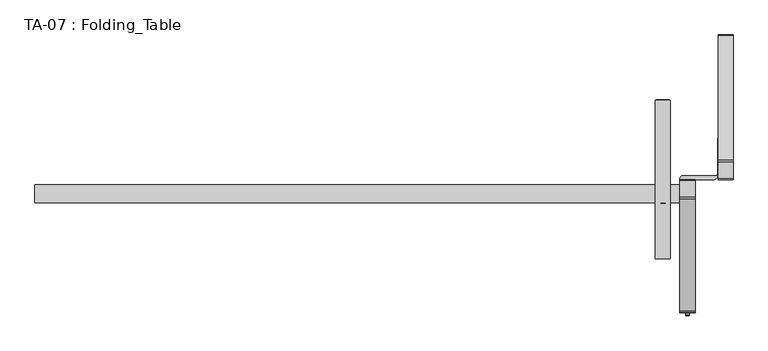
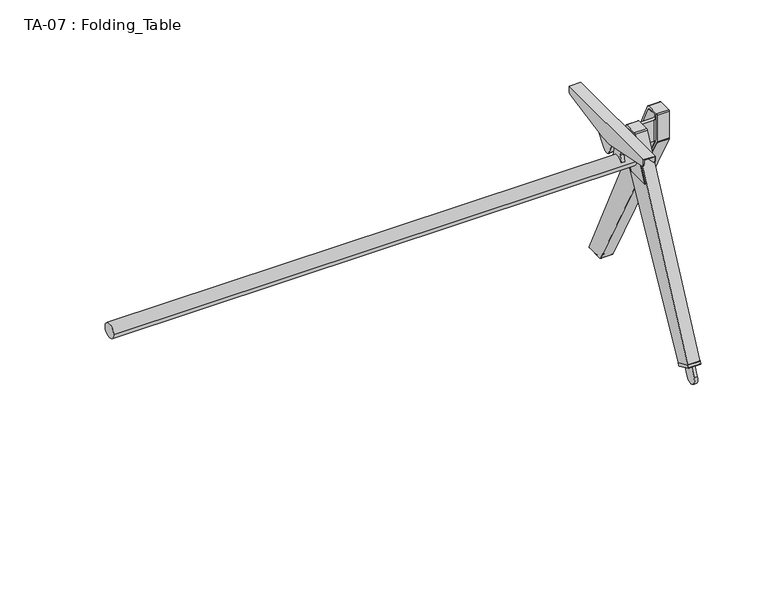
"""IFC4 building model written with IfcOpenShell, lengths in millimetres: furniture geometry, TA-07 : Folding_Table."""

from ifc_helpers import new_model, si_unit, point, frame, frame_2d, origin, place, context, project, spatial, polyline, circle_curve, ellipse_curve, trimmed, segment, composite_curve, outline, extrude, source, transform, mapped, element, save
from ifc_brep_helpers import plane_surface, cylinder_surface, revolved_surface, extruded_surface, advanced_brep


def ta_07_folding_table_b62b0f4c(model_context):
    return source(origin(), model_context, "Body", "SolidModel", [
        advanced_brep(
        [(754.0971375, -600.0, 692.5959015), (786.9972229, -600.0, 692.5959015), (786.9972229, -600.0, 680.1652766), (788.9970398, -600.0, 680.1652766), (788.9970398, -600.0, 694.5959473), (752.0973206, -600.0, 694.5959473), (752.0973206, -600.0, 680.1652766), (754.0971375, -600.0, 680.1652766), (786.9972229, -200.0, 692.5959015), (754.0971375, -200.0, 692.5959015), (754.0971375, -200.0, 680.164896), (752.0973206, -200.0, 680.164896), (752.0973206, -200.0, 694.5959473), (788.9970398, -200.0, 694.5959473), (788.9970398, -200.0, 680.164896), (786.9972229, -200.0, 680.164896), (752.0973206, -420.0, 636.0191727), (752.0973206, -591.9583135, 670.3589007), (752.0973206, -208.0417176, 670.3585139), (752.0973206, -380.0011244, 636.0191345), (754.0971375, -420.0, 636.0191727), (754.0971375, -380.0011244, 636.0191345), (754.0971375, -208.0417176, 670.3585139), (754.0971375, -591.9583135, 670.3589007), (788.9970398, -420.0, 636.0191727), (788.9970398, -380.0011244, 636.0191345), (788.9970398, -208.0417176, 670.3585139), (788.9970398, -591.9583135, 670.3589007), (786.9972229, -420.0, 636.0191727), (786.9972229, -591.9583135, 670.3589007), (786.9972229, -208.0417176, 670.3585139), (786.9972229, -380.0011244, 636.0191345)],
        [
            (0, 1),
            (1, 2),
            (2, 3),
            (3, 4),
            (4, 5),
            (5, 6),
            (6, 7),
            (7, 0),
            (8, 9),
            (9, 10),
            (10, 11),
            (11, 12),
            (12, 13),
            (13, 14),
            (14, 15),
            (15, 8),
            (12, 5),
            (4, 13),
            (0, 9),
            (8, 1),
            (16, 17),
            (17, 6, circle_curve(frame((752.0973206, -590.0, 680.1652766), z_axis=(-1.0, 0.0, 0.0), x_axis=(0.0, 1.0, 0.0)), 10.0)),
            (11, 18, circle_curve(frame((752.0973206, -210.0, 680.164896), z_axis=(-1.0, 0.0, 0.0), x_axis=(0.0, 1.0, 0.0)), 10.0)),
            (18, 19),
            (19, 16),
            (20, 21),
            (21, 22),
            (22, 10, circle_curve(frame((754.0971375, -210.0, 680.164896), z_axis=(1.0, 0.0, 0.0), x_axis=(0.0, 1.0, 0.0)), 10.0)),
            (7, 23, circle_curve(frame((754.0971375, -590.0, 680.1652766), z_axis=(1.0, 0.0, 0.0), x_axis=(0.0, 1.0, 0.0)), 10.0)),
            (23, 20),
            (19, 21),
            (20, 16),
            (18, 22),
            (17, 23),
            (24, 25),
            (25, 26),
            (26, 14, circle_curve(frame((788.9970398, -210.0, 680.164896), z_axis=(1.0, 0.0, 0.0), x_axis=(0.0, 1.0, 0.0)), 10.0)),
            (3, 27, circle_curve(frame((788.9970398, -590.0, 680.1652766), z_axis=(1.0, 0.0, 0.0), x_axis=(0.0, 1.0, 0.0)), 10.0)),
            (27, 24),
            (28, 29),
            (29, 2, circle_curve(frame((786.9972229, -590.0, 680.1652766), z_axis=(-1.0, 0.0, 0.0), x_axis=(0.0, 1.0, 0.0)), 10.0)),
            (15, 30, circle_curve(frame((786.9972229, -210.0, 680.164896), z_axis=(-1.0, 0.0, 0.0), x_axis=(0.0, 1.0, 0.0)), 10.0)),
            (30, 31),
            (31, 28),
            (24, 28),
            (31, 25),
            (30, 26),
            (29, 27),
        ],
        [
            plane_surface(frame((754.0971375, -600.0, 694.5959473), z_axis=(0.0, -1.0, 0.0), x_axis=(-1.0, 0.0, 0.0))),
            plane_surface(frame((754.0971375, -200.0, 694.5959473), z_axis=(0.0, 1.0, 0.0), x_axis=(1.0, 0.0, 0.0))),
            plane_surface(frame((786.9972229, -600.0, 694.5959473), z_axis=(0.0, 0.0, 1.0), x_axis=(0.0, 1.0, 0.0))),
            plane_surface(frame((754.0971375, -600.0, 692.5959015), z_axis=(0.0, 0.0, -1.0), x_axis=(0.0, 1.0, 0.0))),
            plane_surface(frame((752.0973206, -592.1557617, 670.3983307), z_axis=(-1.0000000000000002, 0.0, 0.0), x_axis=(0.0, -0.9806375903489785, 0.1958313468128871))),
            plane_surface(frame((754.0971375, -592.1557617, 670.3983307), z_axis=(1.0000000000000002, 0.0, 0.0), x_axis=(0.0, 0.9806375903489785, -0.1958313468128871))),
            plane_surface(frame((752.0973206, -380.0011244, 636.0191345), z_axis=(0.0, -9.536743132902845e-07, -0.9999999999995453), x_axis=(1.0, 0.0, 0.0))),
            plane_surface(frame((752.0973206, -208.0417176, 670.3585139), z_axis=(0.0, 0.1958282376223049, -0.9806382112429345), x_axis=(1.0, 0.0, 0.0))),
            cylinder_surface(frame((754.0971375, -210.0, 680.164896), z_axis=(-1.0, 0.0, 0.0), x_axis=(0.0, 1.0, 0.0)), 10.0),
            cylinder_surface(frame((754.0971375, -590.0, 680.1652766), z_axis=(-1.0, 0.0, 0.0), x_axis=(0.0, 1.0, 0.0)), 10.0),
            plane_surface(frame((752.0973206, -420.0, 636.0191727), z_axis=(0.0, -0.1958313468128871, -0.9806375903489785), x_axis=(1.0, 0.0, 0.0))),
            plane_surface(frame((788.9970398, -380.0, 636.0191345), z_axis=(1.0, 0.0, 0.0), x_axis=(0.0, 0.9999999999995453, -9.536743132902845e-07))),
            plane_surface(frame((786.9972229, -380.0, 636.0191345), z_axis=(-1.0, 0.0, 0.0), x_axis=(0.0, -0.9999999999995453, 9.536743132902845e-07))),
            plane_surface(frame((788.9970398, -420.0, 636.0191727), z_axis=(0.0, -9.536743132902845e-07, -0.9999999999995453), x_axis=(-1.0, 0.0, 0.0))),
            plane_surface(frame((788.9970398, -380.0011244, 636.0191345), z_axis=(0.0, 0.1958282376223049, -0.9806382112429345), x_axis=(-1.0, 0.0, 0.0))),
            cylinder_surface(frame((786.9972229, -210.0, 680.164896), z_axis=(1.0, 0.0, 0.0), x_axis=(0.0, 1.0, 0.0)), 10.0),
            cylinder_surface(frame((786.9972229, -590.0, 680.1652766), z_axis=(1.0, 0.0, 0.0), x_axis=(0.0, 1.0, 0.0)), 10.0),
            plane_surface(frame((788.9970398, -591.9583135, 670.3589007), z_axis=(0.0, -0.1958313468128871, -0.9806375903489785), x_axis=(-1.0, 0.0, 0.0))),
        ],
        [
            (0, [[1, 2, 3, 4, 5, 6, 7, 8]]),
            (1, [[9, 10, 11, 12, 13, 14, 15, 16]]),
            (2, [[-13, 17, -5, 18]]),
            (3, [[-1, 19, -9, 20]]),
            (4, [[21, 22, -6, -17, -12, 23, 24, 25]]),
            (5, [[26, 27, 28, -10, -19, -8, 29, 30]]),
            (6, [[-25, 31, -26, 32]]),
            (7, [[-24, 33, -27, -31]]),
            (8, [[-23, -11, -28, -33]]),
            (9, [[-22, 34, -29, -7]]),
            (10, [[-21, -32, -30, -34]]),
            (11, [[35, 36, 37, -14, -18, -4, 38, 39]]),
            (12, [[40, 41, -2, -20, -16, 42, 43, 44]]),
            (13, [[-35, 45, -44, 46]]),
            (14, [[-36, -46, -43, 47]]),
            (15, [[-37, -47, -42, -15]]),
            (16, [[-38, -3, -41, 48]]),
            (17, [[-39, -48, -40, -45]]),
        ],
    ),
        extrude(outline(composite_curve([segment(polyline([(-200.0, 692.5959015), (-199.0002441, 692.5959015), (-199.0038608, 680.0645277)]), True, "CONTINUOUS"), segment(trimmed(circle_curve(frame_2d((-209.8817981, 680.0676671)), 10.8779378), [point((-199.0038608, 680.0645277))], [point((-207.7511244, 669.4004388))], False, "CARTESIAN"), True, "CONTINUOUS"), segment(polyline([(-207.7511244, 669.4004388), (-271.2817383, 656.7108248), (-271.2817383, 657.729818), (-208.0417176, 670.3585139)]), True, "CONTINUOUS"), segment(trimmed(circle_curve(frame_2d((-210.0, 680.164896)), 10.0), [point((-208.0417176, 670.3585139))], [point((-200.0, 680.164896))], True, "CARTESIAN"), True, "CONTINUOUS"), segment(polyline([(-200.0, 680.164896), (-200.0, 692.5959015)]), True, "CONTINUOUS")], self_intersect=False)), frame((754.0971375, 0.0, 0.0), z_axis=(1.0, 0.0, 0.0), x_axis=(0.0, 1.0, 0.0)), (0.0, 0.0, 1.0), 32.9000854),
        extrude(outline(polyline([(-452.5708008, 615.4007339), (-462.3022461, 660.1964569), (-460.480957, 692.5959015), (-411.9262695, 692.5959015), (-410.1049805, 660.1964569), (-419.8364258, 615.4007339), (-414.5422363, 594.0221024), (-415.8666992, 593.2231903), (-431.9549873, 605.80503), (-440.4321023, 605.80503), (-456.6023328, 593.2604712), (-457.8649902, 594.0221024), (-452.5708008, 615.4007339)])), frame((765.2958679, 0.0, 0.0), z_axis=(1.0, 0.0, 0.0), x_axis=(0.0, 1.0, 0.0)), (0.0, 0.0, 1.0), 11.3989258),
        extrude(outline(composite_curve([segment(polyline([(-410.0929386, 601.5192922), (-455.8850098, 692.5959015), (-313.3691406, 692.5959015), (-386.0443302, 600.8897033)]), True, "CONTINUOUS"), segment(trimmed(circle_curve(frame_2d((-394.7775739, 607.8106111)), 11.1430925), [point((-386.0443302, 600.8897033))], [point((-394.7775739, 596.6675186))], False, "CARTESIAN"), True, "CONTINUOUS"), segment(polyline([(-394.7775739, 596.6675186), (-402.2230265, 596.6675186)]), True, "CONTINUOUS"), segment(trimmed(circle_curve(frame_2d((-402.2230265, 605.4761762)), 8.8086575), [point((-402.2230265, 596.6675186))], [point((-410.0929386, 601.5192922))], False, "CARTESIAN"), True, "CONTINUOUS")], self_intersect=False)), frame((754.0971375, 0.0, 0.0), z_axis=(1.0, 0.0, 0.0), x_axis=(0.0, 1.0, 0.0)), (0.0, 0.0, 1.0), 32.9000854),
        advanced_brep(
        [(909.9983215, -388.8262127, 661.4302063), (909.9983215, -392.7819824, 657.4744366), (909.9983215, -392.7819824, 580.7332459), (909.9983215, -390.7921278, 572.8320514), (909.9983215, -371.4930343, 536.9463768), (909.9983215, -365.5569557, 533.3987045), (909.9983215, -298.68737, 533.3986664), (909.9983215, -296.4370087, 536.9958113), (909.9983215, -355.1239136, 657.6416082), (909.9983215, -361.1798947, 661.4302063), (908.7800598, -388.8262127, 661.4302063), (908.7800598, -361.1798947, 661.4302063), (908.7800598, -355.1239136, 657.6416082), (908.7800598, -296.4370087, 536.9958113), (908.7800598, -298.68737, 533.3986664), (908.7800598, -365.5569557, 533.3987045), (908.7800598, -371.4930343, 536.9463768), (908.7800598, -390.7921278, 572.8320514), (908.7800598, -392.7819824, 580.7332459), (908.7800598, -392.7819824, 582.8483963), (908.7800598, -385.991464, 582.8483963), (908.7800598, -385.991464, 652.8482819), (908.7800598, -392.7819824, 652.8482819), (908.7800598, -392.7819824, 657.4744366), (909.6035583, -392.7819824, 652.8482819), (909.6035583, -392.7819824, 582.8483963), (822.780304, -390.0, 652.8482819), (812.780304, -400.0, 652.8482819), (812.780304, -407.2180176, 652.8482819), (813.9985657, -407.2180176, 652.8482819), (814.0065002, -400.0, 652.8482819), (899.9983215, -400.0, 652.8482819), (904.7715239, -390.0, 652.8482819), (822.780304, -390.0, 582.8483963), (904.7715239, -390.0, 582.8483963), (899.9983215, -400.0, 582.8483963), (814.0065002, -400.0, 582.8483963), (814.0065002, -407.2180176, 582.8483963), (812.780304, -407.2180176, 582.8483963), (812.780304, -400.0, 582.8483963), (812.780304, -407.2180176, 580.7332459), (812.780304, -409.2078722, 572.8320514), (812.780304, -428.5069657, 536.9463768), (812.780304, -434.4430443, 533.3987045), (812.780304, -501.31263, 533.3986664), (812.780304, -503.5629913, 536.9958113), (812.780304, -444.8760864, 657.6416082), (812.780304, -438.8201053, 661.4302063), (812.780304, -411.1737873, 661.4302063), (812.780304, -407.2180176, 657.4744366), (814.0065002, -407.2180176, 657.4744366), (814.0065002, -411.1737873, 661.4302063), (814.0065002, -438.8201053, 661.4302063), (814.0065002, -444.8760864, 657.6416082), (814.0065002, -503.5629913, 536.9958113), (814.0065002, -501.31263, 533.3986664), (814.0065002, -434.4430443, 533.3987045), (814.0065002, -428.5069657, 536.9463768), (814.0065002, -409.2078722, 572.8320514), (814.0065002, -407.2180176, 580.7332459)],
        [
            (0, 1, circle_curve(frame((909.9983215, -388.8262127, 657.4744366), z_axis=(1.0, 0.0, 0.0), x_axis=(0.0, 1.0, 0.0)), 3.9557697)),
            (1, 2),
            (2, 3, circle_curve(frame((909.9983215, -376.1002619, 580.7332459), z_axis=(1.0, 0.0, 0.0), x_axis=(0.0, 1.0, 0.0)), 16.6817205)),
            (3, 4),
            (4, 5, circle_curve(frame((909.9983215, -365.5569519, 540.1387651), z_axis=(1.0, 0.0, 0.0), x_axis=(0.0, 1.0, 0.0)), 6.7400606)),
            (5, 6),
            (6, 7, circle_curve(frame((909.9983215, -298.6873685, 535.901147), z_axis=(1.0, 0.0, 0.0), x_axis=(0.0, 1.0, 0.0)), 2.5024806)),
            (7, 8),
            (8, 9, circle_curve(frame((909.9983215, -361.1798947, 654.6957385), z_axis=(1.0, 0.0, 0.0), x_axis=(0.0, 1.0, 0.0)), 6.7344678)),
            (9, 0),
            (10, 11),
            (11, 12, circle_curve(frame((908.7800598, -361.1798947, 654.6957385), z_axis=(-1.0, 0.0, 0.0), x_axis=(0.0, 1.0, 0.0)), 6.7344678)),
            (12, 13),
            (13, 14, circle_curve(frame((908.7800598, -298.6873685, 535.901147), z_axis=(-1.0, 0.0, 0.0), x_axis=(0.0, 1.0, 0.0)), 2.5024806)),
            (14, 15),
            (15, 16, circle_curve(frame((908.7800598, -365.5569519, 540.1387651), z_axis=(-1.0, 0.0, 0.0), x_axis=(0.0, 1.0, 0.0)), 6.7400606)),
            (16, 17),
            (17, 18, circle_curve(frame((908.7800598, -376.1002619, 580.7332459), z_axis=(-1.0, 0.0, 0.0), x_axis=(0.0, 1.0, 0.0)), 16.6817205)),
            (18, 19),
            (19, 20),
            (20, 21),
            (21, 22),
            (22, 23),
            (23, 10, circle_curve(frame((908.7800598, -388.8262127, 657.4744366), z_axis=(-1.0, 0.0, 0.0), x_axis=(0.0, 1.0, 0.0)), 3.9557697)),
            (0, 10),
            (23, 1),
            (22, 24),
            (24, 25),
            (25, 19),
            (18, 2),
            (17, 3),
            (16, 4),
            (15, 5),
            (14, 6),
            (13, 7),
            (12, 8),
            (11, 9),
            (26, 27, circle_curve(frame((822.780304, -400.0, 652.8482819), z_axis=(0.0, 0.0, 1.0), x_axis=(1.0, 0.0, 0.0)), 10.0)),
            (27, 28),
            (28, 29),
            (29, 30),
            (30, 31),
            (31, 24, circle_curve(frame((899.9983215, -390.0, 652.8482819), z_axis=(0.0, 0.0, 1.0), x_axis=(1.0, 0.0, 0.0)), 10.0)),
            (21, 32, circle_curve(frame((904.7715239, -385.991464, 652.8482819), z_axis=(0.0, 0.0, -1.0), x_axis=(1.0, 0.0, 0.0)), 4.008536)),
            (32, 26),
            (33, 34),
            (34, 20, circle_curve(frame((904.7715239, -385.991464, 582.8483963), z_axis=(0.0, 0.0, 1.0), x_axis=(1.0, 0.0, 0.0)), 4.008536)),
            (25, 35, circle_curve(frame((899.9983215, -390.0, 582.8483963), z_axis=(0.0, 0.0, -1.0), x_axis=(1.0, 0.0, 0.0)), 10.0)),
            (35, 36),
            (36, 37),
            (37, 38),
            (38, 39),
            (39, 33, circle_curve(frame((822.780304, -400.0, 582.8483963), z_axis=(0.0, 0.0, -1.0), x_axis=(1.0, 0.0, 0.0)), 10.0)),
            (26, 33),
            (39, 27),
            (38, 40),
            (40, 41, circle_curve(frame((812.780304, -423.8997381, 580.7332459), z_axis=(-1.0, 0.0, 0.0), x_axis=(0.0, -1.0, 0.0)), 16.6817205)),
            (41, 42),
            (42, 43, circle_curve(frame((812.780304, -434.4430481, 540.1387651), z_axis=(-1.0, 0.0, 0.0), x_axis=(0.0, -1.0, 0.0)), 6.7400606)),
            (43, 44),
            (44, 45, circle_curve(frame((812.780304, -501.3126315, 535.901147), z_axis=(-1.0, 0.0, 0.0), x_axis=(0.0, -1.0, 0.0)), 2.5024806)),
            (45, 46),
            (46, 47, circle_curve(frame((812.780304, -438.8201053, 654.6957385), z_axis=(-1.0, 0.0, 0.0), x_axis=(0.0, -1.0, 0.0)), 6.7344678)),
            (47, 48),
            (48, 49, circle_curve(frame((812.780304, -411.1737873, 657.4744366), z_axis=(-1.0, 0.0, 0.0), x_axis=(0.0, -1.0, 0.0)), 3.9557697)),
            (49, 28),
            (29, 50),
            (50, 51, circle_curve(frame((814.0065002, -411.1737873, 657.4744366), z_axis=(1.0, 0.0, 0.0), x_axis=(0.0, -1.0, 0.0)), 3.9557697)),
            (51, 52),
            (52, 53, circle_curve(frame((814.0065002, -438.8201053, 654.6957385), z_axis=(1.0, 0.0, 0.0), x_axis=(0.0, -1.0, 0.0)), 6.7344678)),
            (53, 54),
            (54, 55, circle_curve(frame((814.0065002, -501.3126315, 535.901147), z_axis=(1.0, 0.0, 0.0), x_axis=(0.0, -1.0, 0.0)), 2.5024806)),
            (55, 56),
            (56, 57, circle_curve(frame((814.0065002, -434.4430481, 540.1387651), z_axis=(1.0, 0.0, 0.0), x_axis=(0.0, -1.0, 0.0)), 6.7400606)),
            (57, 58),
            (58, 59, circle_curve(frame((814.0065002, -423.8997381, 580.7332459), z_axis=(1.0, 0.0, 0.0), x_axis=(0.0, -1.0, 0.0)), 16.6817205)),
            (59, 37),
            (36, 30),
            (35, 31),
            (34, 32),
            (50, 49),
            (48, 51),
            (59, 40),
            (58, 41),
            (57, 42),
            (56, 43),
            (55, 44),
            (54, 45),
            (53, 46),
            (52, 47),
        ],
        [
            plane_surface(frame((909.9983215, -384.870443, 657.4744366), z_axis=(1.0, 0.0, 0.0), x_axis=(0.0, 0.0, 1.0))),
            plane_surface(frame((908.7800598, -384.870443, 657.4744366), z_axis=(-1.0, 0.0, 0.0), x_axis=(0.0, 0.0, -1.0))),
            cylinder_surface(frame((908.7800598, -388.8262127, 657.4744366), z_axis=(1.0, 0.0, 0.0), x_axis=(0.0, 1.0, 0.0)), 3.9557697),
            plane_surface(frame((909.9983215, -392.7819824, 657.4744366), z_axis=(0.0, -1.0, 0.0), x_axis=(-1.0, 0.0, 0.0))),
            cylinder_surface(frame((908.7800598, -376.1002619, 580.7332459), z_axis=(1.0, 0.0, 0.0), x_axis=(0.0, 1.0, 0.0)), 16.6817205),
            plane_surface(frame((909.9983215, -390.7921278, 572.8320514), z_axis=(0.0, -0.8807164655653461, -0.4736438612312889), x_axis=(-1.0, 0.0, 0.0))),
            cylinder_surface(frame((908.7800598, -365.5569519, 540.1387651), z_axis=(1.0, 0.0, 0.0), x_axis=(0.0, 1.0, 0.0)), 6.7400606),
            plane_surface(frame((909.9983215, -365.5569557, 533.3987045), z_axis=(0.0, -5.702242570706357e-07, -0.9999999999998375), x_axis=(-1.0, 0.0, 0.0))),
            cylinder_surface(frame((908.7800598, -298.6873685, 535.901147), z_axis=(1.0, 0.0, 0.0), x_axis=(0.0, 1.0, 0.0)), 2.5024806),
            plane_surface(frame((909.9983215, -296.4370087, 536.9958113), z_axis=(0.0, 0.8992516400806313, 0.4374316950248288), x_axis=(-1.0, 0.0, 0.0))),
            cylinder_surface(frame((908.7800598, -361.1798947, 654.6957385), z_axis=(1.0, 0.0, 0.0), x_axis=(0.0, 1.0, 0.0)), 6.7344678),
            plane_surface(frame((909.9983215, -361.1798947, 661.4302063), z_axis=(0.0, 0.0, 1.0), x_axis=(-1.0, 0.0, 0.0))),
            plane_surface(frame((832.780304, -400.0, 652.8482819), z_axis=(0.0, 0.0, 1.0), x_axis=(0.0, 1.0, 0.0))),
            plane_surface(frame((832.780304, -400.0, 582.8483963), z_axis=(0.0, 0.0, -1.0), x_axis=(0.0, -1.0, 0.0))),
            cylinder_surface(frame((822.780304, -400.0, 582.8483963), z_axis=(0.0, 0.0, 1.0), x_axis=(1.0, 0.0, 0.0)), 10.0),
            plane_surface(frame((812.780304, -400.0, 652.8482819), z_axis=(-1.0, 0.0, 0.0), x_axis=(0.0, 0.0, -1.0))),
            plane_surface(frame((814.0065002, -407.2180176, 652.8482819), z_axis=(1.0, 0.0, 0.0), x_axis=(0.0, 0.0, -1.0))),
            plane_surface(frame((814.0065002, -400.0, 652.8482819), z_axis=(0.0, -1.0, 0.0), x_axis=(0.0, 0.0, -1.0))),
            cylinder_surface(frame((899.9983215, -390.0, 582.8483963), z_axis=(0.0, 0.0, 1.0), x_axis=(1.0, 0.0, 0.0)), 10.0),
            revolved_surface(polyline([(908.7800599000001, -385.991464, 582.8483963), (908.7800599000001, -385.991464, 652.8482819)]), (904.7715239, -385.991464, 582.8483963), (0.0, 0.0, -1.0)),
            plane_surface(frame((904.7715239, -390.0, 652.8482819), z_axis=(0.0, 1.0, 0.0), x_axis=(0.0, 0.0, -1.0))),
            cylinder_surface(frame((812.780304, -411.1737873, 657.4744366), z_axis=(1.0, 0.0, 0.0), x_axis=(0.0, -1.0, 0.0)), 3.9557697),
            plane_surface(frame((813.9985657, -407.2180176, 580.7332459), z_axis=(0.0, 1.0, 0.0), x_axis=(-1.0, 0.0, 0.0))),
            cylinder_surface(frame((812.780304, -423.8997381, 580.7332459), z_axis=(1.0, 0.0, 0.0), x_axis=(0.0, -1.0, 0.0)), 16.6817205),
            plane_surface(frame((813.9985657, -428.5069657, 536.9463768), z_axis=(0.0, 0.8807164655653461, -0.4736438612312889), x_axis=(-1.0, 0.0, 0.0))),
            cylinder_surface(frame((812.780304, -434.4430481, 540.1387651), z_axis=(1.0, 0.0, 0.0), x_axis=(0.0, -1.0, 0.0)), 6.7400606),
            plane_surface(frame((813.9985657, -501.31263, 533.3986664), z_axis=(0.0, 5.702242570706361e-07, -0.9999999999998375), x_axis=(-1.0, 0.0, 0.0))),
            cylinder_surface(frame((812.780304, -501.3126315, 535.901147), z_axis=(1.0, 0.0, 0.0), x_axis=(0.0, -1.0, 0.0)), 2.5024806),
            plane_surface(frame((813.9985657, -444.8760864, 657.6416082), z_axis=(0.0, -0.8992516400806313, 0.4374316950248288), x_axis=(-1.0, 0.0, 0.0))),
            cylinder_surface(frame((812.780304, -438.8201053, 654.6957385), z_axis=(1.0, 0.0, 0.0), x_axis=(0.0, -1.0, 0.0)), 6.7344678),
            plane_surface(frame((813.9985657, -411.1737873, 661.4302063), z_axis=(0.0, 0.0, 1.0), x_axis=(-1.0, 0.0, 0.0))),
        ],
        [
            (0, [[1, 2, 3, 4, 5, 6, 7, 8, 9, 10]]),
            (1, [[11, 12, 13, 14, 15, 16, 17, 18, 19, 20, 21, 22, 23, 24]]),
            (2, [[-1, 25, -24, 26]]),
            (3, [[-2, -26, -23, 27, 28, 29, -19, 30]]),
            (4, [[-3, -30, -18, 31]]),
            (5, [[-4, -31, -17, 32]]),
            (6, [[-5, -32, -16, 33]]),
            (7, [[-6, -33, -15, 34]]),
            (8, [[-7, -34, -14, 35]]),
            (9, [[-8, -35, -13, 36]]),
            (10, [[-9, -36, -12, 37]]),
            (11, [[-10, -37, -11, -25]]),
            (12, [[38, 39, 40, 41, 42, 43, -27, -22, 44, 45]]),
            (13, [[46, 47, -20, -29, 48, 49, 50, 51, 52, 53]]),
            (14, [[-38, 54, -53, 55]]),
            (15, [[-39, -55, -52, 56, 57, 58, 59, 60, 61, 62, 63, 64, 65, 66]]),
            (16, [[-41, 67, 68, 69, 70, 71, 72, 73, 74, 75, 76, 77, -50, 78]]),
            (17, [[-42, -78, -49, 79]]),
            (18, [[-79, -48, -28, -43]]),
            (19, [[-44, -21, -47, 80]]),
            (20, [[-45, -80, -46, -54]]),
            (21, [[-68, 81, -65, 82]]),
            (22, [[-81, -67, -40, -66]]),
            (22, [[83, -56, -51, -77]]),
            (23, [[-76, 84, -57, -83]]),
            (24, [[-75, 85, -58, -84]]),
            (25, [[-74, 86, -59, -85]]),
            (26, [[-73, 87, -60, -86]]),
            (27, [[-72, 88, -61, -87]]),
            (28, [[-71, 89, -62, -88]]),
            (29, [[-70, 90, -63, -89]]),
            (30, [[-69, -82, -64, -90]]),
        ],
    ),
        extrude(outline(composite_curve([segment(trimmed(circle_curve(frame_2d((-436.2036133, 582.8474045)), 22.902832), [point((-459.1064453, 582.8474045))], [point((-413.3007813, 582.8474045))], False, "CARTESIAN"), True, "CONTINUOUS"), segment(trimmed(circle_curve(frame_2d((-436.2036133, 582.8474045)), 22.902832), [point((-413.3007813, 582.8474045))], [point((-459.1064453, 582.8474045))], False, "CARTESIAN"), True, "CONTINUOUS")], self_intersect=False)), frame((-814.0013123, 0.0, 0.0), z_axis=(1.0, 0.0, 0.0), x_axis=(0.0, 1.0, 0.0)), (0.0, 0.0, 1.0), 1627.9998779),
        extrude(outline(composite_curve([segment(polyline([(-732.3899502, 78.2882255), (-680.4574418, 54.186971), (-683.7228327, 48.1139125)]), True, "CONTINUOUS"), segment(trimmed(circle_curve(frame_2d((-685.1821687, 48.8985752)), 1.6569119), [point((-683.7228327, 48.1139125))], [point((-685.8796773, 47.3956317))], False, "CARTESIAN"), True, "CONTINUOUS"), segment(polyline([(-685.8796773, 47.3956317), (-734.8756253, 70.1344057)]), True, "CONTINUOUS"), segment(trimmed(circle_curve(frame_2d((-734.3351562, 71.2989712)), 1.283869), [point((-734.8756253, 70.1344057))], [point((-735.4915767, 71.8566553))], False, "CARTESIAN"), True, "CONTINUOUS"), segment(polyline([(-735.4915767, 71.8566553), (-732.3899502, 78.2882255)]), True, "CONTINUOUS")], self_intersect=False)), frame((813.9985657, 0.0, 0.0), z_axis=(1.0, 0.0, 0.0), x_axis=(0.0, 1.0, 0.0)), (0.0, 0.0, 1.0), 37.9998779),
        advanced_brep(
        [(837.8330994, -741.9613773, 37.5714478), (837.8330994, -704.1780804, 20.0337892), (837.8330994, -690.2764968, 49.9848002), (837.8330994, -728.059082, 67.5213623), (828.1639099, -741.9613773, 37.5714478), (828.1639099, -728.059082, 67.5213623), (828.1639099, -690.2764968, 49.9848002), (828.1639099, -704.1780804, 20.0337892)],
        [
            (0, 1, ellipse_curve(frame((837.8330994, -723.0698751, 28.8023033), z_axis=(1.0, 0.0, 0.0), x_axis=(0.0, -0.9070580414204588, 0.42100559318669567)), 20.8275479, 20.7758644)),
            (1, 2),
            (2, 3),
            (3, 0),
            (4, 5),
            (5, 6),
            (6, 7),
            (7, 4, ellipse_curve(frame((828.1639099, -723.0698751, 28.8023033), z_axis=(-1.0, 0.0, 0.0), x_axis=(0.0, -0.9070580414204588, 0.42100559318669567)), 20.8275479, 20.7758644)),
            (0, 4),
            (7, 1),
            (6, 2),
            (5, 3),
        ],
        [
            plane_surface(frame((837.8330994, -741.9616699, 37.5708175), z_axis=(1.0, 0.0, 0.0), x_axis=(0.0, -0.42100559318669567, -0.9070580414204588))),
            plane_surface(frame((828.1639099, -741.9616699, 37.5708175), z_axis=(-1.0, 0.0, 0.0), x_axis=(0.0, 0.42100559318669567, 0.9070580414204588))),
            extruded_surface(trimmed(ellipse_curve(frame((818.4947205, -723.0698751, 28.8023033), z_axis=(1.0, 0.0, 0.0), x_axis=(0.0, -0.9070580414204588, 0.42100559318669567)), 20.8275479, 20.7758644), [point((818.4947205, -741.9613773, 37.5714478))], [point((818.4947205, -704.1780804, 20.0337892))], True, "CARTESIAN"), (9.66918940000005, 0.0, 0.0), 9.66918940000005),
            plane_surface(frame((837.8330994, -704.1780804, 20.0337892), z_axis=(0.0, 0.9070580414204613, -0.42100559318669), x_axis=(-1.0, 0.0, 0.0))),
            plane_surface(frame((837.8330994, -690.2764968, 49.9848002), z_axis=(0.0, 0.4210055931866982, 0.9070580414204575), x_axis=(-1.0, 0.0, 0.0))),
            plane_surface(frame((837.8330994, -728.059082, 67.5213623), z_axis=(0.0, -0.9070439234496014, 0.4210360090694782), x_axis=(-1.0, 0.0, 0.0))),
        ],
        [
            (0, [[1, 2, 3, 4]]),
            (1, [[5, 6, 7, 8]]),
            (2, [[-1, 9, -8, 10]]),
            (3, [[-2, -10, -7, 11]]),
            (4, [[-3, -11, -6, 12]]),
            (5, [[-4, -12, -5, -9]]),
        ],
    ),
        advanced_brep(
        [(928.9982605, -59.3579102, 8.4972829), (943.8835144, -59.3579102, 8.4972829), (914.1130066, -59.3579102, 8.4972829), (917.3508998, -59.3579102, -0.4026309), (940.6456212, -59.3579102, -0.4026309), (928.9982605, -59.3579102, -0.4026309), (914.1130066, -59.3579102, 2.8352622), (943.8835144, -59.3579102, 2.8352622)],
        [
            (0, 1),
            (1, 2, circle_curve(frame((928.9982605, -59.3579102, 8.4972829), z_axis=(0.0, 0.0, 1.0), x_axis=(1.0, 0.0, 0.0)), 14.8852539)),
            (2, 0),
            (2, 1, circle_curve(frame((928.9982605, -59.3579102, 8.4972829), z_axis=(0.0, 0.0, 1.0), x_axis=(1.0, 0.0, 0.0)), 14.8852539)),
            (3, 4, circle_curve(frame((928.9982605, -59.3579102, -0.4026309), z_axis=(0.0, 0.0, -1.0), x_axis=(1.0, 0.0, 0.0)), 11.6473607)),
            (4, 5),
            (5, 3),
            (4, 3, circle_curve(frame((928.9982605, -59.3579102, -0.4026309), z_axis=(0.0, 0.0, -1.0), x_axis=(1.0, 0.0, 0.0)), 11.6473607)),
            (6, 7, circle_curve(frame((928.9982605, -59.3579102, 2.8352622), z_axis=(0.0, 0.0, -1.0), x_axis=(1.0, 0.0, 0.0)), 14.8852539)),
            (7, 4, circle_curve(frame((940.6456212, -59.3579102, 2.8352622), z_axis=(0.0, 1.0, 0.0), x_axis=(1.0, 0.0, 0.0)), 3.2378932)),
            (3, 6, circle_curve(frame((917.3508998, -59.3579102, 2.8352622), z_axis=(0.0, 1.0, 0.0), x_axis=(-1.0, 0.0, 0.0)), 3.2378932)),
            (7, 6, circle_curve(frame((928.9982605, -59.3579102, 2.8352622), z_axis=(0.0, 0.0, -1.0), x_axis=(1.0, 0.0, 0.0)), 14.8852539)),
            (1, 7),
            (6, 2),
        ],
        [
            plane_surface(frame((928.9982605, -59.3579102, 8.4972829), z_axis=(0.0, 0.0, 1.0), x_axis=(1.0, 0.0, 0.0))),
            plane_surface(frame((928.9982605, -59.3579102, -0.4026309), z_axis=(0.0, 0.0, -1.0), x_axis=(1.0, 0.0, 0.0))),
            revolved_surface(trimmed(ellipse_curve(frame((940.6456212, -59.3579102, 2.8352622), z_axis=(0.0, -1.0, 0.0), x_axis=(1.0, 0.0, 0.0)), 3.2378932, 3.2378932), [point((940.6456212, -59.3579102, -0.402631))], [point((943.8835144, -59.3579102, 2.8352622))], True, "CARTESIAN"), (928.9982605, -59.3579102, 2.5970915), (0.0, 0.0, 1.0)),
            cylinder_surface(frame((928.9982605, -59.3579102, 2.5970915), z_axis=(0.0, 0.0, 1.0), x_axis=(1.0, 0.0, 0.0)), 14.8852539),
        ],
        [
            (0, [[1, 2, 3]]),
            (0, [[-3, 4, -1]]),
            (1, [[5, 6, 7]]),
            (1, [[8, -7, -6]]),
            (2, [[9, 10, -5, 11]]),
            (2, [[12, -11, -8, -10]]),
            (3, [[-2, 13, -9, 14]]),
            (3, [[-4, -14, -12, -13]]),
        ],
    ),
        extrude(outline(composite_curve([segment(trimmed(circle_curve(frame_2d((-444.7968515, 664.0430982)), 4.6051256), [point((-448.9448302, 666.043462))], [point((-444.7968515, 668.6482239))], False, "CARTESIAN"), True, "CONTINUOUS"), segment(polyline([(-444.7968515, 668.6482239), (-403.017943, 668.6482239)]), True, "CONTINUOUS"), segment(trimmed(circle_curve(frame_2d((-403.017943, 665.6302809)), 3.017943), [point((-403.017943, 668.6482239))], [point((-400.0, 665.6302809))], False, "CARTESIAN"), True, "CONTINUOUS"), segment(polyline([(-400.0, 665.6302809), (-400.0, 578.3069586)]), True, "CONTINUOUS"), segment(trimmed(circle_curve(frame_2d((-410.0, 578.3069586)), 10.0), [point((-400.0, 578.3069586))], [point((-401.1924346, 573.5712652))], False, "CARTESIAN"), True, "CONTINUOUS"), segment(polyline([(-401.1924346, 573.5712652), (-679.7176354, 55.5628822)]), True, "CONTINUOUS"), segment(trimmed(circle_curve(frame_2d((-681.1769714, 56.3475449)), 1.6569119), [point((-679.7176354, 55.5628822))], [point((-681.8744713, 54.8445974))], False, "CARTESIAN"), True, "CONTINUOUS"), segment(polyline([(-681.8744713, 54.8445974), (-731.2079702, 77.7396827)]), True, "CONTINUOUS"), segment(trimmed(circle_curve(frame_2d((-730.6675078, 78.9042514)), 1.283869), [point((-731.2079702, 77.7396827))], [point((-731.8239283, 79.4619355))], False, "CARTESIAN"), True, "CONTINUOUS"), segment(polyline([(-731.8239283, 79.4619355), (-448.9448302, 666.043462)]), True, "CONTINUOUS")], self_intersect=False)), frame((813.9985657, 0.0, 0.0), z_axis=(1.0, 0.0, 0.0), x_axis=(0.0, 1.0, 0.0)), (0.0, 0.0, 1.0), 37.9998779),
        extrude(outline(composite_curve([segment(polyline([(-351.0551698, 666.043462), (-35.2405628, 11.166465)]), True, "CONTINUOUS"), segment(trimmed(circle_curve(frame_2d((-36.9167231, 10.3581362)), 1.8608892), [point((-35.2405628, 11.166465))], [point((-36.9167243, 8.4972471))], False, "CARTESIAN"), True, "CONTINUOUS"), segment(polyline([(-36.9167243, 8.4972471), (-92.0703429, 8.4972829)]), True, "CONTINUOUS"), segment(trimmed(circle_curve(frame_2d((-92.0703397, 13.3585124)), 4.8612295), [point((-92.0703429, 8.4972829))], [point((-96.3518994, 11.0563832))], False, "CARTESIAN"), True, "CONTINUOUS"), segment(polyline([(-96.3518994, 11.0563832), (-398.8075654, 573.5712652)]), True, "CONTINUOUS"), segment(trimmed(circle_curve(frame_2d((-390.0, 578.3069586)), 10.0), [point((-398.8075654, 573.5712652))], [point((-400.0, 578.3069586))], False, "CARTESIAN"), True, "CONTINUOUS"), segment(polyline([(-400.0, 578.3069586), (-400.0, 665.6302809)]), True, "CONTINUOUS"), segment(trimmed(circle_curve(frame_2d((-396.982057, 665.6302809)), 3.017943), [point((-400.0, 665.6302809))], [point((-396.982057, 668.6482239))], False, "CARTESIAN"), True, "CONTINUOUS"), segment(polyline([(-396.982057, 668.6482239), (-355.2031485, 668.6482239)]), True, "CONTINUOUS"), segment(trimmed(circle_curve(frame_2d((-355.2031485, 664.0430982)), 4.6051256), [point((-355.2031485, 668.6482239))], [point((-351.0551698, 666.043462))], False, "CARTESIAN"), True, "CONTINUOUS")], self_intersect=False)), frame((909.9983215, 0.0, 0.0), z_axis=(1.0, 0.0, 0.0), x_axis=(0.0, 1.0, 0.0)), (0.0, 0.0, 1.0), 38.0001831),
    ])


if __name__ == "__main__":
    model = new_model("IFC4")
    model_context = context("Model", 3, world=origin())
    ifc_project = project(units=[si_unit("LENGTHUNIT", "METRE", prefix="MILLI")], contexts=[model_context])
    site = spatial("IfcSite", under=ifc_project)
    building = spatial("IfcBuilding", under=site)
    placement = place(None, origin())
    ta_07_folding_table_shape = ta_07_folding_table_b62b0f4c(model_context)
    element("IfcFurniture", 1, ObjectType="TA-07 : Folding_Table", at=placement, inside=building, context=model_context, shape_type="MappedRepresentation", body=[
        mapped(ta_07_folding_table_shape, transform((0.0, 0.0, 0.0), x_axis=(1.0, 0.0, 0.0), y_axis=(0.0, 1.0, 0.0), z_axis=(0.0, 0.0, 1.0))),
    ])
    save(model, "model.ifc")
